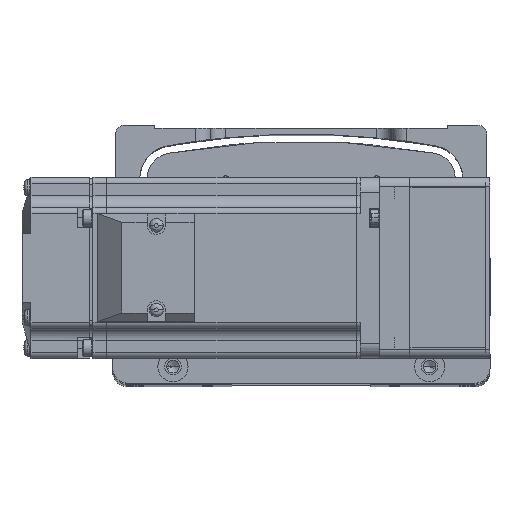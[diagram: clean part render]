
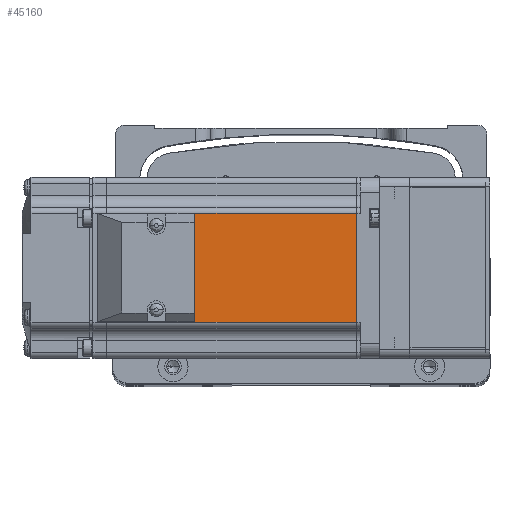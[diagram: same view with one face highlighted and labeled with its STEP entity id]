
A CAD part, top view. The second image highlights one B-rep face of the part: STEP entity #45160.
In plain terms, the highlighted planar face has unit normal (0, 0, 1) as drawn and (0, 1, 0) by its records, which use the part's own axes.
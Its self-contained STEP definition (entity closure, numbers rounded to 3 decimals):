
#1593 = VECTOR ( 'NONE', #54742, 1000. ) ;
#5216 = CARTESIAN_POINT ( 'NONE',  ( -7.75, 30., 18. ) ) ;
#5755 = VERTEX_POINT ( 'NONE', #75428 ) ;
#5807 = EDGE_CURVE ( 'NONE', #39430, #42799, #26219, .T. ) ;
#9012 = DIRECTION ( 'NONE',  ( -1., 0., 0. ) ) ;
#10977 = VECTOR ( 'NONE', #31934, 1000. ) ;
#11370 = FACE_OUTER_BOUND ( 'NONE', #59658, .T. ) ;
#11719 = CARTESIAN_POINT ( 'NONE',  ( -90.45, 30., 18. ) ) ;
#14251 = EDGE_CURVE ( 'NONE', #30891, #39430, #18898, .T. ) ;
#14855 = EDGE_CURVE ( 'NONE', #5755, #42799, #18916, .T. ) ;
#18898 = LINE ( 'NONE', #48252, #1593 ) ;
#18916 = LINE ( 'NONE', #27695, #30039 ) ;
#19760 = ORIENTED_EDGE ( 'NONE', *, *, #14251, .T. ) ;
#26219 = LINE ( 'NONE', #69200, #10977 ) ;
#27695 = CARTESIAN_POINT ( 'NONE',  ( -7.75, 30., 0. ) ) ;
#30039 = VECTOR ( 'NONE', #72926, 1000. ) ;
#30891 = VERTEX_POINT ( 'NONE', #82436 ) ;
#31934 = DIRECTION ( 'NONE',  ( 1., 0., 0. ) ) ;
#36972 = DIRECTION ( 'NONE',  ( 0., 1., 0. ) ) ;
#39430 = VERTEX_POINT ( 'NONE', #11719 ) ;
#42799 = VERTEX_POINT ( 'NONE', #5216 ) ;
#45160 = ADVANCED_FACE ( 'NONE', ( #11370 ), #49698, .T. ) ;
#46664 = ORIENTED_EDGE ( 'NONE', *, *, #14855, .F. ) ;
#48252 = CARTESIAN_POINT ( 'NONE',  ( -90.45, 30., 0. ) ) ;
#48517 = VECTOR ( 'NONE', #9012, 1000. ) ;
#49698 = PLANE ( 'NONE',  #51188 ) ;
#51188 = AXIS2_PLACEMENT_3D ( 'NONE', #75676, #36972, #82209 ) ;
#54742 = DIRECTION ( 'NONE',  ( 0., 0., 1. ) ) ;
#59658 = EDGE_LOOP ( 'NONE', ( #46664, #62138, #19760, #61452 ) ) ;
#61452 = ORIENTED_EDGE ( 'NONE', *, *, #5807, .T. ) ;
#62138 = ORIENTED_EDGE ( 'NONE', *, *, #82912, .T. ) ;
#69200 = CARTESIAN_POINT ( 'NONE',  ( -6.5, 30., 18. ) ) ;
#72926 = DIRECTION ( 'NONE',  ( 0., 0., 1. ) ) ;
#73821 = CARTESIAN_POINT ( 'NONE',  ( -6.5, 30., -18. ) ) ;
#75428 = CARTESIAN_POINT ( 'NONE',  ( -7.75, 30., -18. ) ) ;
#75676 = CARTESIAN_POINT ( 'NONE',  ( -6.5, 30., 25. ) ) ;
#82209 = DIRECTION ( 'NONE',  ( 0., 0., 1. ) ) ;
#82436 = CARTESIAN_POINT ( 'NONE',  ( -90.45, 30., -18. ) ) ;
#82912 = EDGE_CURVE ( 'NONE', #5755, #30891, #82915, .T. ) ;
#82915 = LINE ( 'NONE', #73821, #48517 ) ;
